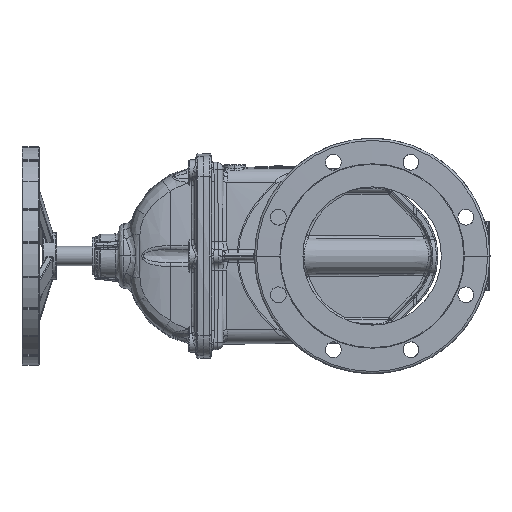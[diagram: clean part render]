
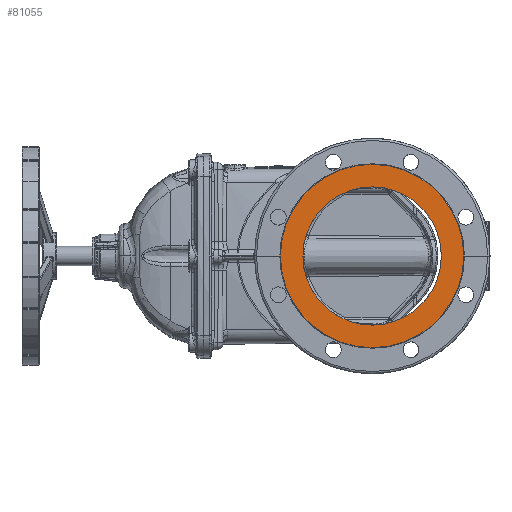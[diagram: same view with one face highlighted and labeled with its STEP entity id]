
A CAD part, left-side view. The second image highlights one B-rep face of the part: STEP entity #81055.
In plain terms, the highlighted planar face has unit normal (-1, 0, 0).
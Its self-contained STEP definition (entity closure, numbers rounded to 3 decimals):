
#304 = PLANE ( 'NONE',  #60436 ) ;
#6894 = FACE_OUTER_BOUND ( 'NONE', #44763, .T. ) ;
#13046 = AXIS2_PLACEMENT_3D ( 'NONE', #63508, #77814, #19770 ) ;
#15353 = EDGE_CURVE ( 'NONE', #79081, #17030, #53416, .T. ) ;
#16421 = AXIS2_PLACEMENT_3D ( 'NONE', #76705, #93708, #33943 ) ;
#17030 = VERTEX_POINT ( 'NONE', #95896 ) ;
#19770 = DIRECTION ( 'NONE',  ( 0., 0., 1. ) ) ;
#22809 = ORIENTED_EDGE ( 'NONE', *, *, #50589, .T. ) ;
#26944 = EDGE_CURVE ( 'NONE', #58255, #60603, #102757, .T. ) ;
#31527 = DIRECTION ( 'NONE',  ( -1., 0., 0. ) ) ;
#33943 = DIRECTION ( 'NONE',  ( 0., 0., 1. ) ) ;
#39737 = CARTESIAN_POINT ( 'NONE',  ( -115., -243.322, -250. ) ) ;
#40884 = CIRCLE ( 'NONE', #16421, 133.235 ) ;
#40906 = CIRCLE ( 'NONE', #13046, 100.5 ) ;
#41875 = FACE_BOUND ( 'NONE', #95136, .T. ) ;
#42116 = CARTESIAN_POINT ( 'NONE',  ( -115., 133.235, 0. ) ) ;
#44763 = EDGE_LOOP ( 'NONE', ( #102996, #52820 ) ) ;
#50589 = EDGE_CURVE ( 'NONE', #17030, #79081, #40906, .T. ) ;
#52820 = ORIENTED_EDGE ( 'NONE', *, *, #86544, .F. ) ;
#53416 = CIRCLE ( 'NONE', #63899, 100.5 ) ;
#58255 = VERTEX_POINT ( 'NONE', #61344 ) ;
#60436 = AXIS2_PLACEMENT_3D ( 'NONE', #39737, #31527, #73697 ) ;
#60603 = VERTEX_POINT ( 'NONE', #42116 ) ;
#61344 = CARTESIAN_POINT ( 'NONE',  ( -115., -133.235, 0. ) ) ;
#61898 = CARTESIAN_POINT ( 'NONE',  ( -115., -100.5, 0. ) ) ;
#63508 = CARTESIAN_POINT ( 'NONE',  ( -115., 0., 0. ) ) ;
#63899 = AXIS2_PLACEMENT_3D ( 'NONE', #70796, #69200, #64732 ) ;
#64732 = DIRECTION ( 'NONE',  ( 0., 0., 1. ) ) ;
#69200 = DIRECTION ( 'NONE',  ( 1., 0., 0. ) ) ;
#70796 = CARTESIAN_POINT ( 'NONE',  ( -115., 0., 0. ) ) ;
#73697 = DIRECTION ( 'NONE',  ( 0., 0., 1. ) ) ;
#75966 = DIRECTION ( 'NONE',  ( 0., 0., 1. ) ) ;
#76557 = AXIS2_PLACEMENT_3D ( 'NONE', #84187, #94064, #75966 ) ;
#76705 = CARTESIAN_POINT ( 'NONE',  ( -115., 0., 0. ) ) ;
#77814 = DIRECTION ( 'NONE',  ( 1., 0., 0. ) ) ;
#79081 = VERTEX_POINT ( 'NONE', #61898 ) ;
#81055 = ADVANCED_FACE ( 'NONE', ( #6894, #41875 ), #304, .T. ) ;
#84187 = CARTESIAN_POINT ( 'NONE',  ( -115., 0., 0. ) ) ;
#86544 = EDGE_CURVE ( 'NONE', #60603, #58255, #40884, .T. ) ;
#93708 = DIRECTION ( 'NONE',  ( 1., 0., 0. ) ) ;
#94064 = DIRECTION ( 'NONE',  ( 1., 0., 0. ) ) ;
#95136 = EDGE_LOOP ( 'NONE', ( #22809, #101411 ) ) ;
#95896 = CARTESIAN_POINT ( 'NONE',  ( -115., 100.5, 0. ) ) ;
#101411 = ORIENTED_EDGE ( 'NONE', *, *, #15353, .T. ) ;
#102757 = CIRCLE ( 'NONE', #76557, 133.235 ) ;
#102996 = ORIENTED_EDGE ( 'NONE', *, *, #26944, .F. ) ;
